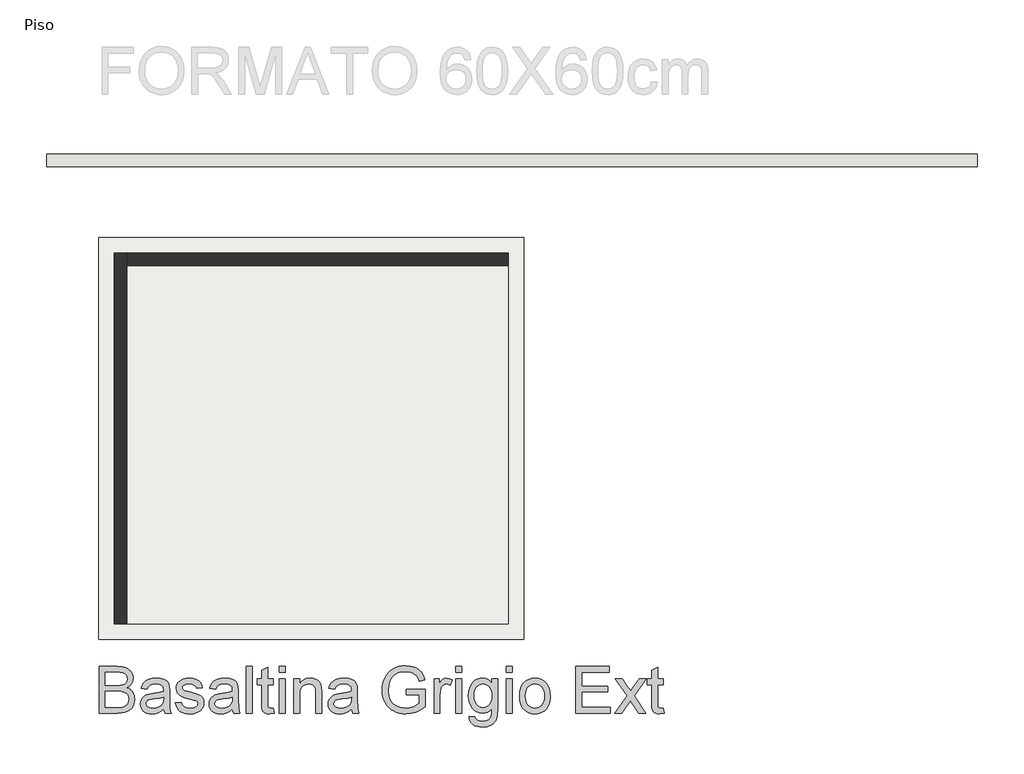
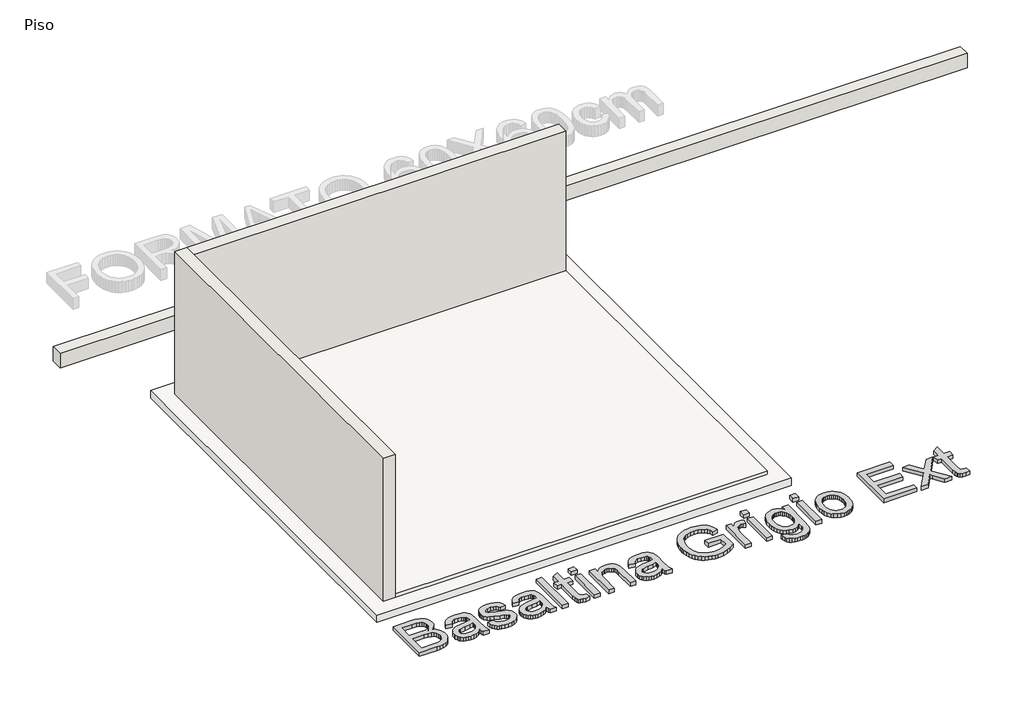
# One storey, part 1 of 2: 3 walls, 2 slabs, 1 proxy.
"""IFC4 building model written with IfcOpenShell, lengths in millimetres."""

from ifc_helpers import new_model, si_unit, frame, origin, origin_with_axes, place, context, project, spatial, polyline, outline, extrude, faceted_brep, element, save

model = new_model("IFC4")

# Units and contexts
model_context = context("Model", 3, world=origin())
ifc_project = project(units=[si_unit("LENGTHUNIT", "METRE", prefix="MILLI")], contexts=[model_context])

# Site, building, storey
site = spatial("IfcSite", under=ifc_project)
building = spatial("IfcBuilding", under=site)
storey = spatial("IfcBuildingStorey", under=building, Name="Piso", Elevation=0.0)

# Proxy
placement = place(None, origin())
element("IfcBuildingElementProxy", 1, Name="600mm Arial", ObjectType="600mm Arial", at=placement, inside=storey, context=model_context, shape_type="SweptSolid", body=[
    extrude(outline(polyline([(124568.9455488, -5284.7339593), (124568.9455488, -4681.9960984), (124798.9453722, -4681.9960984), (124862.2026813, -4686.4290765), (124911.5908391, -4699.7280106), (124931.667999, -4709.7849846), (124949.4458964, -4722.2239946), (124964.9245314, -4737.0450405), (124978.1039038, -4754.2481223), (124996.1485157, -4791.9192386), (125002.1633863, -4831.3561885), (124997.1050089, -4867.6477473), (124981.9298766, -4901.7688023), (124956.5276248, -4931.6224263), (124920.787889, -4955.1116916), (124943.5275948, -4964.8053822), (124963.4805945, -4977.4053406), (124980.6468881, -4992.9115667), (124995.0264756, -5011.3240605), (125006.3894307, -5032.0818021), (125014.5058273, -5054.6237713), (125019.3756652, -5078.9499683), (125020.9989445, -5105.0603929), (125016.5659664, -5147.0909108), (125003.2670323, -5186.0680082), (124983.4197987, -5219.214176), (124959.3419221, -5243.7519051), (124929.8561802, -5261.5206054), (124893.7853505, -5274.3596871), (124849.9522108, -5282.1403913), (124797.1795386, -5284.7339593), (124568.9455488, -5284.7339593)]), holes=[polyline([(124644.2877814, -4926.8583544), (124781.8756476, -4926.8583544), (124829.9946126, -4925.2396736), (124862.2210754, -4920.3836313), (124890.3456539, -4909.2184127), (124910.5607695, -4892.4981761), (124922.7560577, -4870.4804387), (124926.8211537, -4843.4227179), (124923.0319692, -4817.1559435), (124911.6644155, -4794.2736834), (124893.2335276, -4776.4130125), (124868.2543401, -4765.2110057), (124829.9210362, -4759.3064997), (124771.427799, -4757.338331), (124644.2877814, -4757.338331), (124644.2877814, -4926.8583544)]), polyline([(124644.2877814, -5209.3917267), (124798.7982194, -5209.3917267), (124854.7162827, -5206.4486708), (124880.6703574, -5199.9187653), (124902.0259072, -5190.0411338), (124919.3899374, -5175.8960711), (124933.3694532, -5156.5638722), (124942.5848972, -5132.9090599), (124945.6567119, -5105.7961569), (124942.0514683, -5074.3054581), (124931.2357377, -5047.2293432), (124912.3449972, -5026.0577344), (124884.5147243, -5012.2805537), (124845.0961685, -5004.7205787), (124791.4405795, -5002.200587), (124644.2877814, -5002.200587), (124644.2877814, -5209.3917267)])]), origin_with_axes(), (0.0, 0.0, 1.0), 50.0),
    extrude(outline(polyline([(125397.7101075, -5228.2272849), (125361.7128543, -5259.0925843), (125324.6487433, -5279.2893058), (125285.6716459, -5290.4361303), (125243.9354336, -5294.1517384), (125210.3891941, -5291.9168553), (125180.9724301, -5285.2122059), (125155.6851414, -5274.0377903), (125134.5273282, -5258.3936085), (125117.8208871, -5239.2729418), (125105.8877149, -5217.6690716), (125098.7278115, -5193.581998), (125096.3411771, -5167.0117209), (125099.9464206, -5135.7785395), (125110.7621513, -5107.4148376), (125127.4455998, -5083.134626), (125148.6539968, -5064.151915), (125173.578002, -5049.8045172), (125201.4082749, -5039.4302449), (125266.5969645, -5028.0994795), (125343.6314543, -5016.1801028), (125397.2686491, -5002.200587), (125397.7101075, -4985.425168), (125392.5229714, -4951.8007537), (125386.0390512, -4939.3479482), (125376.961563, -4929.8014104), (125361.2713959, -4920.2732667), (125342.1599263, -4913.4674498), (125293.6730793, -4908.0227963), (125248.7914759, -4911.6464339), (125217.4479299, -4922.5173469), (125196.073986, -4942.6220979), (125181.1011888, -4973.9472498), (125105.7589562, -4964.5294707), (125118.8371611, -4923.3266873), (125138.3533009, -4890.9530717), (125166.1283916, -4866.1946134), (125203.9834489, -4847.8373019), (125250.281398, -4836.4697482), (125303.385164, -4832.6805637), (125354.3184262, -4836.0282898), (125394.6934752, -4846.0714683), (125425.1357103, -4861.1730242), (125446.2705309, -4879.6958826), (125460.2868349, -4902.5965368), (125469.3735202, -4930.83148), (125473.0523402, -4996.7559335), (125473.0523402, -5090.4922659), (125476.8783129, -5221.3846798), (125482.5436956, -5253.7399012), (125491.8878983, -5284.7339593), (125416.5456657, -5284.7339593), (125404.4791363, -5258.5407613), (125397.7101075, -5228.2272849)]), holes=[polyline([(125397.7101075, -5077.5428196), (125347.089545, -5090.0875957), (125276.1618963, -5100.6458089), (125211.3410888, -5112.8594912), (125194.4736993, -5121.2104125), (125181.9841056, -5132.7251189), (125174.2585837, -5146.5206937), (125171.6834097, -5161.7142201), (125177.2936101, -5184.1182336), (125194.1242114, -5202.4755452), (125221.8073315, -5214.7260156), (125259.9750885, -5218.8095058), (125300.442108, -5214.3029513), (125336.2002379, -5200.783288), (125365.1893392, -5180.862478), (125385.3492725, -5157.1524834), (125394.288805, -5132.7251189), (125397.2686491, -5098.8799754), (125397.7101075, -5077.5428196)])]), origin_with_axes(), (0.0, 0.0, 1.0), 50.0),
    extrude(outline(polyline([(125548.3945728, -5152.8850523), (125623.7368054, -5143.4672732), (125628.2893451, -5160.6473624), (125635.6193938, -5175.693736), (125645.7269516, -5188.606394), (125658.6120185, -5199.3853364), (125674.3113827, -5207.8834105), (125692.8618323, -5213.9534635), (125738.5159879, -5218.8095058), (125783.6183205, -5214.3581336), (125801.1478976, -5208.7939185), (125815.3297485, -5201.0040172), (125834.0917302, -5181.6534243), (125838.7822257, -5170.8192995), (125840.3457241, -5159.2126226), (125838.7730286, -5149.0406854), (125834.054942, -5140.0091824), (125815.1825957, -5125.367479), (125786.9660466, -5115.8025471), (125737.6330711, -5103.8831705), (125668.8759262, -5083.9991487), (125624.1782638, -5067.0213946), (125595.465074, -5048.4985361), (125574.6613472, -5023.9792011), (125562.0246007, -4995.0268881), (125557.8123518, -4963.2050955), (125561.1968662, -4934.0136592), (125571.3504093, -4907.0663031), (125587.3532761, -4883.4298849), (125608.2857616, -4864.1712624), (125629.0894884, -4852.0495507), (125656.1839974, -4841.8776135), (125687.5091492, -4834.9798261), (125721.0048049, -4832.6805637), (125770.0434749, -4836.3777777), (125812.6809981, -4847.4694199), (125846.9676001, -4864.8702382), (125870.9535061, -4887.4949809), (125886.8460083, -4917.017511), (125896.8523986, -4955.1116916), (125821.510166, -4964.5294707), (125812.0004164, -4940.8194761), (125793.1832524, -4922.9588053), (125764.8747328, -4911.7567985), (125726.8909168, -4908.0227963), (125683.6279942, -4911.5912516), (125654.7860458, -4922.2966177), (125638.5624498, -4937.7476615), (125633.1545845, -4955.55315), (125635.3986646, -4967.1414329), (125642.1309051, -4977.478917), (125653.6456116, -4986.712755), (125670.2370896, -4994.1071831), (125735.1314735, -5010.1468381), (125845.7168013, -5045.6106625), (125874.9266317, -5062.5700224), (125897.0731278, -5085.7833763), (125911.0342495, -5115.3243005), (125915.6879568, -5151.2663715), (125910.2249091, -5188.422453), (125893.8357662, -5223.3712425), (125867.1459275, -5253.3720192), (125830.7807923, -5275.6840622), (125786.855682, -5289.5348194), (125737.4859183, -5294.1517384), (125696.9361254, -5291.9260523), (125661.5182863, -5285.2489941), (125631.232401, -5274.1205638), (125606.0784696, -5258.5407613), (125585.5322602, -5238.583163), (125569.0695409, -5214.3213454), (125556.6903118, -5185.7553085), (125548.3945728, -5152.8850523)])), origin_with_axes(), (0.0, 0.0, 1.0), 50.0),
    extrude(outline(polyline([(126282.9813407, -5228.2272849), (126246.9840875, -5259.0925843), (126209.9199765, -5279.2893058), (126170.9428791, -5290.4361303), (126129.2066668, -5294.1517384), (126095.6604273, -5291.9168553), (126066.2436633, -5285.2122059), (126040.9563746, -5274.0377903), (126019.7985614, -5258.3936085), (126003.0921203, -5239.2729418), (125991.1589481, -5217.6690716), (125983.9990447, -5193.581998), (125981.6124103, -5167.0117209), (125985.2176538, -5135.7785395), (125996.0333845, -5107.4148376), (126012.716833, -5083.134626), (126033.92523, -5064.151915), (126058.8492352, -5049.8045172), (126086.6795081, -5039.4302449), (126151.8681977, -5028.0994795), (126228.9026874, -5016.1801028), (126282.5398823, -5002.200587), (126282.9813407, -4985.425168), (126277.7942046, -4951.8007537), (126271.3102844, -4939.3479482), (126262.2327962, -4929.8014104), (126246.5426291, -4920.2732667), (126227.4311595, -4913.4674498), (126178.9443125, -4908.0227963), (126134.0627091, -4911.6464339), (126102.7191631, -4922.5173469), (126081.3452192, -4942.6220979), (126066.372422, -4973.9472498), (125991.0301894, -4964.5294707), (126004.1083943, -4923.3266873), (126023.6245341, -4890.9530717), (126051.3996248, -4866.1946134), (126089.2546821, -4847.8373019), (126135.5526312, -4836.4697482), (126188.6563972, -4832.6805637), (126239.5896594, -4836.0282898), (126279.9647084, -4846.0714683), (126310.4069435, -4861.1730242), (126331.5417641, -4879.6958826), (126345.5580681, -4902.5965368), (126354.6447534, -4930.83148), (126358.3235733, -4996.7559335), (126358.3235733, -5090.4922659), (126362.1495461, -5221.3846798), (126367.8149288, -5253.7399012), (126377.1591315, -5284.7339593), (126301.8168989, -5284.7339593), (126289.7503694, -5258.5407613), (126282.9813407, -5228.2272849)]), holes=[polyline([(126282.9813407, -5077.5428196), (126232.3607782, -5090.0875957), (126161.4331295, -5100.6458089), (126096.612322, -5112.8594912), (126079.7449325, -5121.2104125), (126067.2553388, -5132.7251189), (126059.5298169, -5146.5206937), (126056.9546429, -5161.7142201), (126062.5648433, -5184.1182336), (126079.3954446, -5202.4755452), (126107.0785647, -5214.7260156), (126145.2463217, -5218.8095058), (126185.7133412, -5214.3029513), (126221.4714711, -5200.783288), (126250.4605724, -5180.862478), (126270.6205057, -5157.1524834), (126279.5600382, -5132.7251189), (126282.5398823, -5098.8799754), (126282.9813407, -5077.5428196)])]), origin_with_axes(), (0.0, 0.0, 1.0), 50.0),
    extrude(outline(polyline([(126461.9191432, -5284.7339593), (126461.9191432, -4681.9960984), (126537.2613758, -4681.9960984), (126537.2613758, -5284.7339593), (126461.9191432, -5284.7339593)])), origin_with_axes(), (0.0, 0.0, 1.0), 50.0),
    extrude(outline(polyline([(126810.376969, -5221.8997145), (126819.7947481, -5286.9412513), (126763.4352264, -5294.1517384), (126727.2724263, -5291.0247414), (126700.3066761, -5281.6437506), (126681.2503887, -5267.1859882), (126668.8159773, -5248.8286766), (126661.9733722, -5217.3011896), (126659.6925038, -5163.3329009), (126659.6925038, -4917.4405753), (126603.1858293, -4917.4405753), (126603.1858293, -4842.0983427), (126659.6925038, -4842.0983427), (126659.6925038, -4734.5296473), (126735.0347364, -4690.2366551), (126735.0347364, -4842.0983427), (126810.376969, -4842.0983427), (126810.376969, -4917.4405753), (126735.0347364, -4917.4405753), (126735.0347364, -5161.1256089), (126739.007862, -5199.9739476), (126751.8837318, -5213.7327343), (126762.7546447, -5217.5403129), (126777.5618951, -5218.8095058), (126810.376969, -5221.8997145)])), origin_with_axes(), (0.0, 0.0, 1.0), 50.0),
    extrude(outline(polyline([(126885.7192016, -4757.338331), (126885.7192016, -4681.9960984), (126961.0614342, -4681.9960984), (126961.0614342, -4757.338331), (126885.7192016, -4757.338331)])), origin_with_axes(), (0.0, 0.0, 1.0), 50.0),
    extrude(outline(polyline([(126885.7192016, -5284.7339593), (126885.7192016, -4842.0983427), (126961.0614342, -4842.0983427), (126961.0614342, -5284.7339593), (126885.7192016, -5284.7339593)])), origin_with_axes(), (0.0, 0.0, 1.0), 50.0),
    extrude(outline(polyline([(127074.0747832, -5284.7339593), (127074.0747832, -4842.0983427), (127149.4170158, -4842.0983427), (127149.4170158, -4903.9025179), (127175.5918197, -4872.7429129), (127207.0273362, -4850.4860522), (127243.7235652, -4837.1319358), (127285.6805068, -4832.6805637), (127322.8181942, -4836.2674131), (127356.8288847, -4847.0279615), (127385.1925865, -4863.6194394), (127405.389308, -4884.6990778), (127419.0929123, -4910.2116941), (127427.9772625, -4940.1021062), (127431.9503881, -5012.9427413), (127431.9503881, -5284.7339593), (127356.6081555, -5284.7339593), (127356.6081555, -5023.0962844), (127354.4376517, -4984.1375811), (127347.9261404, -4956.4360668), (127335.9147932, -4936.5888332), (127317.244782, -4921.1929717), (127293.3140582, -4911.3153401), (127265.5205735, -4908.0227963), (127242.6429119, -4909.8714033), (127221.3931281, -4915.4172244), (127201.7712222, -4924.6602595), (127183.7771941, -4937.6005087), (127168.7446161, -4955.7094999), (127158.0070604, -4980.4587611), (127151.5645269, -5011.8482924), (127149.4170158, -5049.8780936), (127149.4170158, -5284.7339593), (127074.0747832, -5284.7339593)])), origin_with_axes(), (0.0, 0.0, 1.0), 50.0),
    extrude(outline(polyline([(127818.0793302, -5228.2272849), (127782.082077, -5259.0925843), (127745.017966, -5279.2893058), (127706.0408686, -5290.4361303), (127664.3046562, -5294.1517384), (127630.7584168, -5291.9168553), (127601.3416528, -5285.2122059), (127576.0543641, -5274.0377903), (127554.8965509, -5258.3936085), (127538.1901098, -5239.2729418), (127526.2569375, -5217.6690716), (127519.0970342, -5193.581998), (127516.7103998, -5167.0117209), (127520.3156433, -5135.7785395), (127531.131374, -5107.4148376), (127547.8148225, -5083.134626), (127569.0232195, -5064.151915), (127593.9472246, -5049.8045172), (127621.7774976, -5039.4302449), (127686.9661871, -5028.0994795), (127764.0006769, -5016.1801028), (127817.6378718, -5002.200587), (127818.0793302, -4985.425168), (127812.8921941, -4951.8007537), (127806.4082739, -4939.3479482), (127797.3307857, -4929.8014104), (127781.6406186, -4920.2732667), (127762.5291489, -4913.4674498), (127714.042302, -4908.0227963), (127669.1606986, -4911.6464339), (127637.8171526, -4922.5173469), (127616.4432087, -4942.6220979), (127601.4704114, -4973.9472498), (127526.1281788, -4964.5294707), (127539.2063838, -4923.3266873), (127558.7225236, -4890.9530717), (127586.4976142, -4866.1946134), (127624.3526715, -4847.8373019), (127670.6506206, -4836.4697482), (127723.7543866, -4832.6805637), (127774.6876489, -4836.0282898), (127815.0626978, -4846.0714683), (127845.5049329, -4861.1730242), (127866.6397536, -4879.6958826), (127880.6560576, -4902.5965368), (127889.7427429, -4930.83148), (127893.4215628, -4996.7559335), (127893.4215628, -5090.4922659), (127897.2475356, -5221.3846798), (127902.9129183, -5253.7399012), (127912.257121, -5284.7339593), (127836.9148884, -5284.7339593), (127824.8483589, -5258.5407613), (127818.0793302, -5228.2272849)]), holes=[polyline([(127818.0793302, -5077.5428196), (127767.4587677, -5090.0875957), (127696.531119, -5100.6458089), (127631.7103115, -5112.8594912), (127614.842922, -5121.2104125), (127602.3533282, -5132.7251189), (127594.6278063, -5146.5206937), (127592.0526324, -5161.7142201), (127597.6628328, -5184.1182336), (127614.4934341, -5202.4755452), (127642.1765542, -5214.7260156), (127680.3443112, -5218.8095058), (127720.8113307, -5214.3029513), (127756.5694606, -5200.783288), (127785.5585618, -5180.862478), (127805.7184952, -5157.1524834), (127814.6580277, -5132.7251189), (127817.6378718, -5098.8799754), (127818.0793302, -5077.5428196)])]), origin_with_axes(), (0.0, 0.0, 1.0), 50.0),
    extrude(outline(polyline([(128524.4127609, -5049.2894824), (128524.4127609, -4973.9472498), (128769.2750169, -4973.9472498), (128769.2750169, -5199.2381836), (128709.7701042, -5240.6249081), (128648.3889933, -5270.3129851), (128585.2788371, -5288.1920501), (128520.5867882, -5294.1517384), (128477.31007, -5291.7834981), (128436.0658998, -5284.678777), (128396.8542776, -5272.8375753), (128359.6752035, -5256.2598929), (128325.7288924, -5235.1940501), (128296.2155593, -5209.8883674), (128271.1352043, -5180.3428447), (128250.4878273, -5146.5574819), (128234.3608004, -5109.6129326), (128222.8414954, -5070.5898499), (128215.9299124, -5029.488234), (128213.6260514, -4986.3080848), (128215.9207154, -4943.1233371), (128222.8047072, -4901.4193145), (128234.2780269, -4861.1960168), (128250.3406745, -4822.4534442), (128270.7075415, -4786.8930508), (128295.0935193, -4756.216291), (128323.4986078, -4730.4231646), (128355.9228072, -4709.5136717), (128391.662543, -4693.354455), (128430.014241, -4681.8121574), (128470.9779011, -4674.8867789), (128514.5535235, -4672.5783194), (128576.6152161, -4677.9310024), (128632.4229147, -4693.9890515), (128657.3423214, -4705.7428812), (128679.4198396, -4719.5936383), (128698.6554694, -4735.5413228), (128715.0492108, -4753.5859347), (128741.4079558, -4797.6030154), (128760.5930019, -4853.2819554), (128691.1368812, -4872.8532775), (128675.6306551, -4833.1404161), (128656.7767028, -4803.1764276), (128631.8343035, -4780.5884731), (128598.0627364, -4763.0037138), (128557.798052, -4751.6913424), (128513.3763011, -4747.920552), (128461.3761811, -4751.985648), (128416.917642, -4764.1809361), (128380.1662306, -4782.9797061), (128351.287494, -4806.8552476), (128329.1226038, -4834.5751559), (128312.5127317, -4864.9070264), (128294.854396, -4921.7815829), (128288.968284, -4983.2178761), (128290.7387161, -5020.8384086), (128296.0500124, -5055.2675648), (128304.902173, -5086.5053447), (128317.2951977, -5114.5517484), (128333.0681382, -5139.3010096), (128352.0600462, -5160.6473624), (128374.2709217, -5178.5908067), (128399.7007646, -5193.1313425), (128427.158557, -5204.365539), (128455.453281, -5212.389965), (128484.5849364, -5217.2046206), (128514.5535235, -5218.8095058), (128566.7375845, -5213.9718576), (128617.6340585, -5199.4589128), (128661.8350802, -5179.4645264), (128693.9327843, -5158.182553), (128693.9327843, -5049.2894824), (128524.4127609, -5049.2894824)])), origin_with_axes(), (0.0, 0.0, 1.0), 50.0),
    extrude(outline(polyline([(128882.2883659, -5284.7339593), (128882.2883659, -4842.0983427), (128948.2128194, -4842.0983427), (128948.2128194, -4907.5813379), (128972.5666075, -4869.615916), (128995.0074092, -4847.2486907), (129017.5217873, -4836.3225954), (129042.0963046, -4832.6805637), (129079.6202681, -4838.4930992), (129117.7328428, -4855.9307057), (129092.5697143, -4923.4738401), (129066.0822106, -4911.8855572), (129039.594707, -4908.0227963), (129017.098723, -4911.7384044), (128996.993972, -4922.8852289), (128980.7519819, -4940.617141), (128969.8442807, -4964.0880123), (128960.684019, -5006.1737126), (128957.6305985, -5052.0853856), (128957.6305985, -5284.7339593), (128882.2883659, -5284.7339593)])), origin_with_axes(), (0.0, 0.0, 1.0), 50.0),
    extrude(outline(polyline([(129164.8217382, -4757.338331), (129164.8217382, -4681.9960984), (129240.1639708, -4681.9960984), (129240.1639708, -4757.338331), (129164.8217382, -4757.338331)])), origin_with_axes(), (0.0, 0.0, 1.0), 50.0),
    extrude(outline(polyline([(129164.8217382, -5284.7339593), (129164.8217382, -4842.0983427), (129240.1639708, -4842.0983427), (129240.1639708, -5284.7339593), (129164.8217382, -5284.7339593)])), origin_with_axes(), (0.0, 0.0, 1.0), 50.0),
    extrude(outline(polyline([(129334.3417615, -5322.4050756), (129409.6839941, -5331.8228547), (129417.9981272, -5355.3673024), (129434.1113586, -5371.5541102), (129465.7859984, -5384.1356744), (129507.2462993, -5388.3295292), (129551.4657151, -5383.5838514), (129569.3263859, -5377.6517543), (129584.3543655, -5369.3468182), (129607.1630492, -5346.5381345), (129621.142565, -5316.0775053), (129625.2260551, -5283.6671015), (129626.2929129, -5228.2272849), (129601.2217549, -5252.9489549), (129573.2443292, -5270.6072907), (129542.3606357, -5281.2022922), (129508.5706744, -5284.7339593), (129467.2621249, -5280.622878), (129430.8923912, -5268.2896341), (129399.4614732, -5247.7342277), (129372.969371, -5218.9566586), (129351.9495135, -5184.4309333), (129336.9353296, -5146.6310583), (129327.9268192, -5105.5570336), (129324.9239825, -5061.2088591), (129330.3134537, -5000.3795712), (129346.4818674, -4944.4431138), (129358.4656234, -4919.2202045), (129372.8590064, -4897.0415187), (129389.6620166, -4877.9070564), (129408.8746538, -4861.8168177), (129430.1888168, -4849.0697065), (129453.2964047, -4839.9646272), (129478.1974172, -4834.5015795), (129504.8918545, -4832.6805637), (129540.1257526, -4836.800842), (129572.103895, -4849.161677), (129600.8262818, -4869.7630688), (129626.2929129, -4898.6050172), (129626.2929129, -4842.0983427), (129701.6351455, -4842.0983427), (129701.6351455, -5224.2541593), (129696.4847976, -5312.4906559), (129690.0468627, -5345.3103284), (129681.0337538, -5370.597617), (129669.2293403, -5390.9920751), (129654.4174914, -5409.133256), (129636.5982073, -5425.0211597), (129615.7714878, -5438.6557861), (129592.1488652, -5449.6002755), (129565.9418716, -5457.4177679), (129537.1505069, -5462.1082633), (129505.7747713, -5463.6717618), (129468.8624116, -5461.4690683), (129435.6748571, -5454.860988), (129406.2121078, -5443.8475208), (129380.4741637, -5428.4286666), (129359.6842325, -5408.5860315), (129345.0655217, -5384.3012213), (129336.6180314, -5355.574236), (129334.3417615, -5322.4050756)]), holes=[polyline([(129400.2662151, -5056.0585111), (129402.2757705, -5093.3111617), (129408.3044367, -5125.1651439), (129418.3522137, -5151.6204579), (129432.4191014, -5172.6771036), (129449.5210157, -5188.7397512), (129468.6738721, -5200.2130709), (129489.8776706, -5207.0970628), (129513.1324112, -5209.3917267), (129536.1572256, -5207.1108583), (129557.2598565, -5200.2682532), (129576.440304, -5188.8639114), (129593.6985681, -5172.8978328), (129607.958594, -5152.0481207), (129618.1443267, -5125.9928784), (129624.2557664, -5094.7321059), (129626.2929129, -5058.2658031), (129624.1959855, -5023.3216121), (129617.9052034, -4992.9483549), (129607.4205665, -4967.1460314), (129592.7420749, -4945.9146418), (129575.1113303, -4929.3369594), (129555.7699344, -4917.4957576), (129534.7178873, -4910.3910366), (129511.9551888, -4908.0227963), (129489.5741679, -4910.3542484), (129468.9313895, -4917.3486048), (129450.0268534, -4929.0058656), (129432.8605598, -4945.3260306), (129418.600534, -4966.2355235), (129408.4148013, -4991.6607679), (129402.3033616, -5021.6017637), (129400.2662151, -5056.0585111)])]), origin_with_axes(), (0.0, 0.0, 1.0), 50.0),
    extrude(outline(polyline([(129814.6484944, -5284.7339593), (129814.6484944, -4842.0983427), (129889.990727, -4842.0983427), (129889.990727, -5284.7339593), (129814.6484944, -5284.7339593)])), origin_with_axes(), (0.0, 0.0, 1.0), 50.0),
    extrude(outline(polyline([(129814.6484944, -4757.338331), (129814.6484944, -4681.9960984), (129889.990727, -4681.9960984), (129889.990727, -4757.338331), (129814.6484944, -4757.338331)])), origin_with_axes(), (0.0, 0.0, 1.0), 50.0),
    extrude(outline(polyline([(129984.1685178, -5063.416151), (129988.2428109, -5006.0909391), (130000.4656902, -4956.6935842), (130020.8371557, -4915.2240863), (130049.3572074, -4881.6824454), (130078.0703971, -4860.2441221), (130109.763431, -4844.9310341), (130144.436309, -4835.7431813), (130182.0890312, -4832.6805637), (130223.6550981, -4836.4099674), (130261.2388425, -4847.5981786), (130294.8402642, -4866.2451972), (130324.4593633, -4892.3510233), (130348.633809, -4925.03274), (130365.9012701, -4963.4074306), (130376.2617468, -5007.4750951), (130379.715239, -5057.2357335), (130378.1885287, -5097.5647972), (130373.6083979, -5133.3505183), (130365.9748465, -5164.5928968), (130355.2878745, -5191.2919326), (130341.6808392, -5214.3535351), (130325.2870978, -5234.6836139), (130306.1066503, -5252.2821688), (130284.1394967, -5267.1492), (130260.2409626, -5278.9628105), (130235.2663736, -5287.4011038), (130209.2157298, -5292.4640797), (130182.0890312, -5294.1517384), (130139.915959, -5290.4361303), (130101.9827268, -5279.2893058), (130068.2893345, -5260.711265), (130038.8357823, -5234.702008), (130014.9188541, -5201.702993), (129997.8353339, -5162.1556785), (129987.5852218, -5116.0600645), (129984.1685178, -5063.416151)]), holes=[polyline([(130059.5107504, -5063.2689982), (130061.6904512, -5099.8134759), (130068.2295537, -5131.455926), (130079.1280578, -5158.1963486), (130094.3859636, -5180.0347435), (130112.9456102, -5196.998702), (130133.749337, -5209.1158152), (130156.797144, -5216.3860831), (130182.0890312, -5218.8095058), (130207.2521597, -5216.3722876), (130230.2079962, -5209.0606329), (130250.9565407, -5196.8745418), (130269.4977933, -5179.8140143), (130284.755699, -5157.7594887), (130295.6542031, -5130.5914033), (130302.1933056, -5098.3097583), (130304.3730064, -5060.9145535), (130302.17951, -5025.528904), (130295.5990208, -4994.7141884), (130284.6315388, -4968.4704066), (130269.2770641, -4946.7975586), (130250.6668336, -4929.8336001), (130229.9320847, -4917.7164868), (130207.0728172, -4910.4462189), (130182.0890312, -4908.0227963), (130156.797144, -4910.4370219), (130133.749337, -4917.6796986), (130112.9456102, -4929.7508266), (130094.3859636, -4946.6504058), (130079.1280578, -4968.4244213), (130068.2295537, -4995.1188586), (130061.6904512, -5026.7337176), (130059.5107504, -5063.2689982)])]), origin_with_axes(), (0.0, 0.0, 1.0), 50.0),
    extrude(outline(polyline([(130709.3375067, -5284.7339593), (130709.3375067, -4681.9960984), (131142.5553442, -4681.9960984), (131142.5553442, -4757.338331), (130784.6797393, -4757.338331), (130784.6797393, -4936.2761335), (131123.7197861, -4936.2761335), (131123.7197861, -5011.6183661), (130784.6797393, -5011.6183661), (130784.6797393, -5209.3917267), (131151.9731233, -5209.3917267), (131151.9731233, -5284.7339593), (130709.3375067, -5284.7339593)])), origin_with_axes(), (0.0, 0.0, 1.0), 50.0),
    extrude(outline(polyline([(131208.4797978, -5284.7339593), (131369.4649588, -5062.2389286), (131217.8975768, -4842.0983427), (131308.5437004, -4842.0983427), (131381.6786411, -4948.0483573), (131415.8180902, -4998.0803087), (131445.3958027, -4957.1718308), (131528.6842864, -4842.0983427), (131619.33041, -4842.0983427), (131460.1110825, -5062.2389286), (131613.444298, -5284.7339593), (131522.7981744, -5284.7339593), (131430.53337, -5150.9720659), (131413.6107983, -5126.5447014), (131299.1259214, -5284.7339593), (131208.4797978, -5284.7339593)])), origin_with_axes(), (0.0, 0.0, 1.0), 50.0),
    extrude(outline(polyline([(131839.4709959, -5221.8997145), (131848.888775, -5286.9412513), (131792.5292533, -5294.1517384), (131756.3664532, -5291.0247414), (131729.4007029, -5281.6437506), (131710.3444156, -5267.1859882), (131697.9100041, -5248.8286766), (131691.067399, -5217.3011896), (131688.7865307, -5163.3329009), (131688.7865307, -4917.4405753), (131632.2798562, -4917.4405753), (131632.2798562, -4842.0983427), (131688.7865307, -4842.0983427), (131688.7865307, -4734.5296473), (131764.1287633, -4690.2366551), (131764.1287633, -4842.0983427), (131839.4709959, -4842.0983427), (131839.4709959, -4917.4405753), (131764.1287633, -4917.4405753), (131764.1287633, -5161.1256089), (131768.1018888, -5199.9739476), (131780.9777587, -5213.7327343), (131791.8486716, -5217.5403129), (131806.6559219, -5218.8095058), (131839.4709959, -5221.8997145)])), origin_with_axes(), (0.0, 0.0, 1.0), 50.0),
])

# Slabs
element("IfcSlab", 2, ObjectType="5cm - Porcelanato Basaltina Grigio Ext  - Externo 60X60", at=placement, inside=storey, context=model_context, shape_type="SweptSolid", body=[
    extrude(outline(polyline([(129838.6357757, 491.3996719), (129838.6357757, -4129.2003281), (124918.0357757, -4129.2003281), (124918.0357757, 491.3996719), (129838.6357757, 491.3996719)])), origin_with_axes(), (0.0, 0.0, 1.0), 50.0),
])
element("IfcSlab", 3, ObjectType="CO02 - Concreto Estrutural Simples", at=placement, inside=storey, context=model_context, shape_type="SweptSolid", body=[
    extrude(outline(polyline([(130038.6357757, 850.1996719), (130038.6357757, -4329.2003281), (124559.2357757, -4329.2003281), (124559.2357757, 850.1996719), (130038.6357757, 850.1996719)])), frame((0.0, 0.0, -100.0), z_axis=(0.0, 0.0, 1.0), x_axis=(1.0, 0.0, 0.0)), (0.0, 0.0, 1.0), 100.0),
])

# Walls
element("IfcWall", 4, ObjectType="CO01 - Bloco de Concreto 14cm / Pintura Branca Simples", at=placement, inside=storey, context=model_context, shape_type="Brep", body=[
    faceted_brep([(124918.0357757, -4129.2003281, 0.0), (124918.0357757, 491.3996719, 0.0), (124918.0357757, 650.1996719, 0.0), (124918.0357757, 650.1996719, 2000.0), (124918.0357757, 491.3996719, 2000.0), (124918.0357757, -4129.2003281, 2000.0), (124759.2357757, -4129.2003281, 0.0), (124759.2357757, -4129.2003281, 2000.0), (124759.2357757, 650.1996719, 2000.0), (124759.2357757, 650.1996719, 0.0)], [[[0, 1, 2, 3, 4, 5]], [[6, 7, 8, 9]], [[2, 1, 0, 6, 9]], [[5, 4, 3, 8, 7]], [[0, 5, 7, 6]], [[3, 2, 9, 8]]]),
])
element("IfcWall", 5, ObjectType="CO01 - Bloco de Concreto 14cm / Pintura Branca Simples", at=placement, inside=storey, context=model_context, shape_type="SweptSolid", body=[
    extrude(outline(polyline([(129838.6357757, 491.3996719), (124918.0357757, 491.3996719), (124918.0357757, 650.1996719), (129838.6357757, 650.1996719), (129838.6357757, 491.3996719)])), origin_with_axes(), (0.0, 0.0, 1.0), 2000.0),
])
element("IfcWall", 6, ObjectType="CO01 - Bloco de Concreto 14cm / Pintura Branca Simples", at=placement, inside=storey, context=model_context, shape_type="SweptSolid", body=[
    extrude(outline(polyline([(135886.699165, 1765.7486968), (123886.699165, 1765.7486968), (123886.699165, 1924.5486968), (135886.699165, 1924.5486968), (135886.699165, 1765.7486968)])), origin_with_axes(), (0.0, 0.0, 1.0), 200.0),
])

save(model, "model.ifc")
